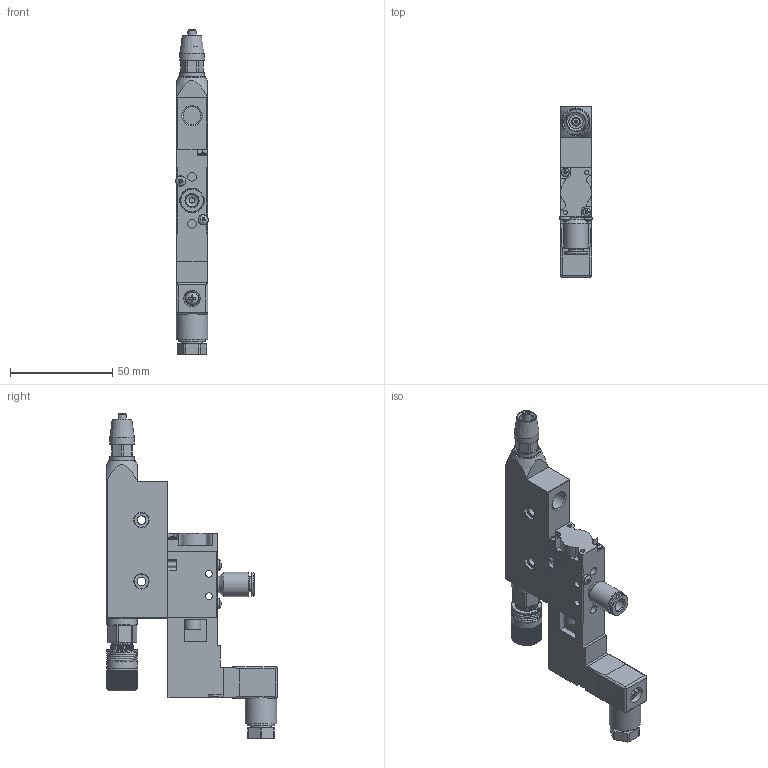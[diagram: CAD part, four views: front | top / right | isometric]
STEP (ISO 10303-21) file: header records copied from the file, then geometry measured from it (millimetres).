
FILE_DESCRIPTION (( 'STEP AP214' ), '1' );
FILE_NAME ('DA-400EV-SY.STEP', '2024-10-11T09:50:27', ( '' ), ( '' ), 'SwSTEP 2.0', 'SolidWorks 2024', '' );
FILE_SCHEMA (( 'AUTOMOTIVE_DESIGN' ));
Length unit declared in the file: millimetre
Products named in the file (1): DA-400EV-SY
Bounding box: 16 x 83.5 x 158.75 mm (x, y, z)
Volume: 73253.7 mm3; surface area: 28575.9 mm2
Topology: 2 solids, 2 shells, 1051 faces, 2803 edges, 1798 vertices
Faces by surface type: plane 604, cylinder 303, cone 93, torus 33, sphere 11, bspline 7
Full cylindrical faces by diameter (mm): 1 x2, 1.5 x2, 1.6 x1, 2 x3, 2.5 x9, 2.7 x5, 3 x6, 3.2 x3, 3.3 x2, 3.5 x4, 4 x4, 4.17 x1, 4.2 x6, 4.5 x1, 5 x3, 5.5 x1, 6.15 x1, 7 x6, 7.3 x1, 7.5 x1, 8 x1, 8.34 x2, 8.8 x1, 8.85 x1, 10 x2, 10.2 x1, 10.5 x1, 11.5 x1, 12 x3, 13.157 x1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
Entity records: 43408 total; most frequent: CARTESIAN_POINT 19974, ORIENTED_EDGE 5118, DIRECTION 4118, EDGE_CURVE 2559, VERTEX_POINT 1715, AXIS2_PLACEMENT_3D 1470, EDGE_LOOP 1302, LINE 1178
